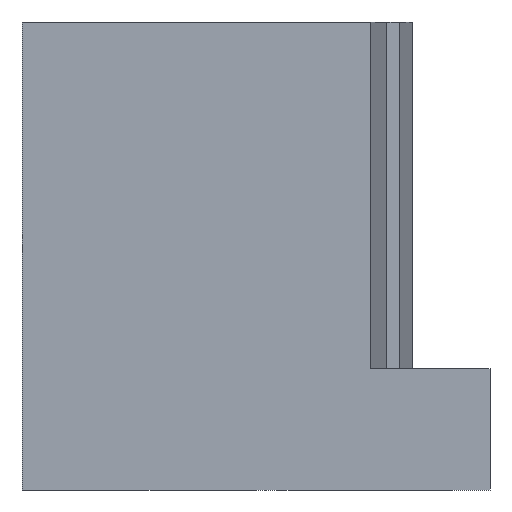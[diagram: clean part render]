
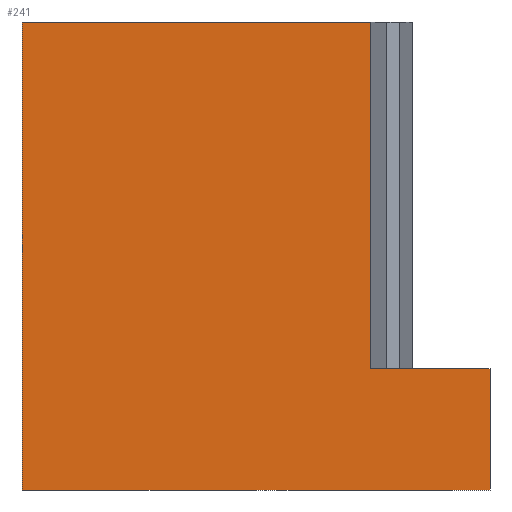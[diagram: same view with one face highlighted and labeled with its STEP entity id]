
A CAD part, left-side view. The second image highlights one B-rep face of the part: STEP entity #241.
In plain terms, the highlighted planar face has unit normal (-1, 0, 0).
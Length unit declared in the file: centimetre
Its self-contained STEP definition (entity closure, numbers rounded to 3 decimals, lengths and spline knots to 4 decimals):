
#167 = DIRECTION ( 'NONE',  ( 0., 0., -1. ) ) ;
#241 = ADVANCED_FACE ( 'NONE', ( #2225 ), #2619, .F. ) ;
#274 = VECTOR ( 'NONE', #2180, 100. ) ;
#290 = ORIENTED_EDGE ( 'NONE', *, *, #909, .T. ) ;
#335 = AXIS2_PLACEMENT_3D ( 'NONE', #1591, #793, #167 ) ;
#552 = CARTESIAN_POINT ( 'NONE',  ( 0., 1000., 0. ) ) ;
#556 = CARTESIAN_POINT ( 'NONE',  ( 0., 0., 258.8054 ) ) ;
#591 = EDGE_CURVE ( 'NONE', #1906, #2509, #1633, .T. ) ;
#607 = CARTESIAN_POINT ( 'NONE',  ( 0., 254.6594, 258.8054 ) ) ;
#647 = ORIENTED_EDGE ( 'NONE', *, *, #942, .F. ) ;
#689 = CARTESIAN_POINT ( 'NONE',  ( 0., 1000., 1000. ) ) ;
#793 = DIRECTION ( 'NONE',  ( 1., 0., 0. ) ) ;
#816 = VECTOR ( 'NONE', #2118, 100. ) ;
#850 = LINE ( 'NONE', #1443, #1539 ) ;
#909 = EDGE_CURVE ( 'NONE', #1906, #2593, #964, .T. ) ;
#942 = EDGE_CURVE ( 'NONE', #2509, #1812, #850, .T. ) ;
#964 = LINE ( 'NONE', #1025, #1368 ) ;
#1024 = VECTOR ( 'NONE', #1995, 100. ) ;
#1025 = CARTESIAN_POINT ( 'NONE',  ( 0., 254.6594, 258.8054 ) ) ;
#1097 = CARTESIAN_POINT ( 'NONE',  ( 0., 1000., 1000. ) ) ;
#1184 = CARTESIAN_POINT ( 'NONE',  ( 0., 0., 0. ) ) ;
#1200 = VERTEX_POINT ( 'NONE', #689 ) ;
#1207 = ORIENTED_EDGE ( 'NONE', *, *, #591, .F. ) ;
#1235 = ORIENTED_EDGE ( 'NONE', *, *, #1929, .T. ) ;
#1295 = LINE ( 'NONE', #1097, #816 ) ;
#1368 = VECTOR ( 'NONE', #2017, 100. ) ;
#1391 = EDGE_LOOP ( 'NONE', ( #1207, #290, #2476, #1733, #1235, #647 ) ) ;
#1431 = DIRECTION ( 'NONE',  ( 0., 0., -1. ) ) ;
#1443 = CARTESIAN_POINT ( 'NONE',  ( 0., 0., 1000. ) ) ;
#1453 = EDGE_CURVE ( 'NONE', #1200, #2593, #1295, .T. ) ;
#1472 = CARTESIAN_POINT ( 'NONE',  ( 0., 254.6594, 1000. ) ) ;
#1475 = EDGE_CURVE ( 'NONE', #1200, #1841, #1783, .T. ) ;
#1533 = CARTESIAN_POINT ( 'NONE',  ( 0., 254.6594, 258.8054 ) ) ;
#1539 = VECTOR ( 'NONE', #1431, 100. ) ;
#1590 = CARTESIAN_POINT ( 'NONE',  ( 0., 1000., 1000. ) ) ;
#1591 = CARTESIAN_POINT ( 'NONE',  ( 0., 1000., 1000. ) ) ;
#1633 = LINE ( 'NONE', #607, #1024 ) ;
#1674 = VECTOR ( 'NONE', #2195, 100. ) ;
#1733 = ORIENTED_EDGE ( 'NONE', *, *, #1475, .T. ) ;
#1783 = LINE ( 'NONE', #1590, #1674 ) ;
#1812 = VERTEX_POINT ( 'NONE', #1184 ) ;
#1841 = VERTEX_POINT ( 'NONE', #552 ) ;
#1906 = VERTEX_POINT ( 'NONE', #1533 ) ;
#1929 = EDGE_CURVE ( 'NONE', #1841, #1812, #2565, .T. ) ;
#1995 = DIRECTION ( 'NONE',  ( 0., -1., 0. ) ) ;
#2017 = DIRECTION ( 'NONE',  ( 0., 0., 1. ) ) ;
#2118 = DIRECTION ( 'NONE',  ( 0., -1., 0. ) ) ;
#2180 = DIRECTION ( 'NONE',  ( 0., -1., 0. ) ) ;
#2193 = CARTESIAN_POINT ( 'NONE',  ( 0., 1000., 0. ) ) ;
#2195 = DIRECTION ( 'NONE',  ( 0., 0., -1. ) ) ;
#2225 = FACE_OUTER_BOUND ( 'NONE', #1391, .T. ) ;
#2476 = ORIENTED_EDGE ( 'NONE', *, *, #1453, .F. ) ;
#2509 = VERTEX_POINT ( 'NONE', #556 ) ;
#2565 = LINE ( 'NONE', #2193, #274 ) ;
#2593 = VERTEX_POINT ( 'NONE', #1472 ) ;
#2619 = PLANE ( 'NONE',  #335 ) ;
